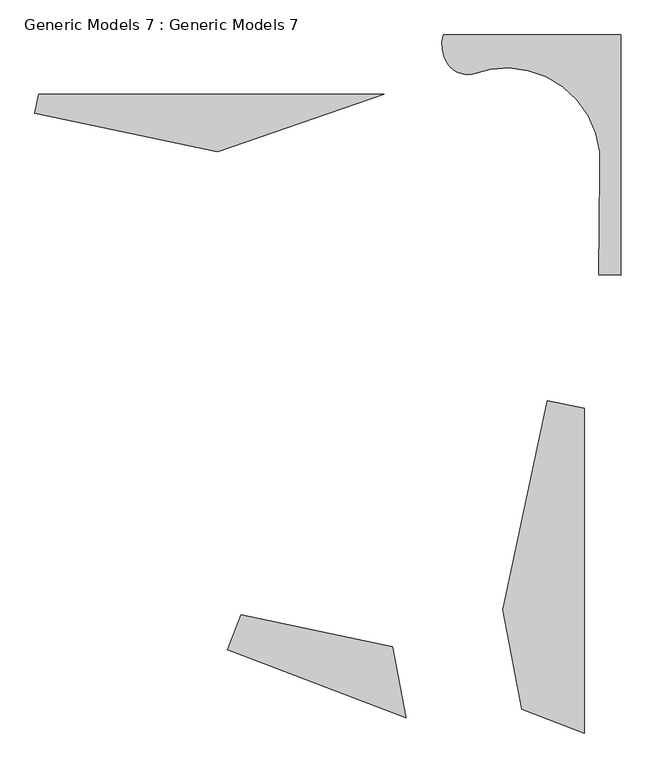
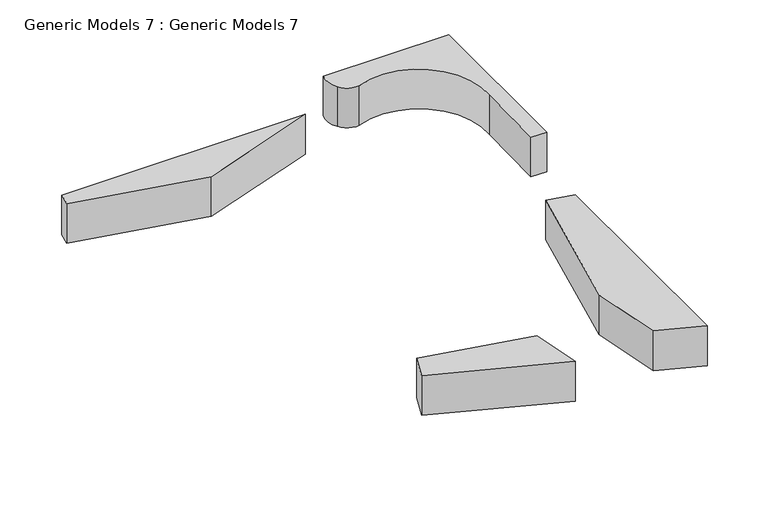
"""IFC4 building model written with IfcOpenShell, lengths in millimetres: proxy geometry, Generic Models 7 : Generic Models 7."""

from ifc_helpers import new_model, si_unit, point, frame_2d, origin, origin_with_axes, place, context, project, spatial, polyline, circle_curve, trimmed, segment, composite_curve, outline, extrude, source, transform, mapped, element, save


def generic_models_7_generic_models_7_7422e29e(model_context):
    return source(origin(), model_context, "Body", "SweptSolid", [
        extrude(outline(polyline([(930191.9500965, 2287.6675148), (951314.5255424, -2208.4790081), (953204.5525016, -12091.0568672), (928321.023888, -2636.3728738), (930191.9500965, 2287.6675148)])), origin_with_axes(), (0.0, 0.0, 1.0), 8273.9884206),
        extrude(outline(polyline([(966713.6471054, 2939.2951685), (972930.2437006, 32144.4222544), (978126.1003503, 31038.4334099), (978126.1003503, -14230.6899708), (969360.4088522, -10900.0995073), (966713.6471054, 2939.2951685)])), origin_with_axes(), (0.0, 0.0, 1.0), 8273.9884206),
        extrude(outline(composite_curve([segment(polyline([(980118.1753802, 49679.3179984), (980290.1632546, 64153.1720601)]), True, "CONTINUOUS"), segment(trimmed(circle_curve(frame_2d((967178.9130026, 65378.4038336)), 13168.374086), [point((980290.1632546, 64153.1720601))], [point((962400.7884493, 77649.3288934))], True, "CARTESIAN"), True, "CONTINUOUS"), segment(trimmed(circle_curve(frame_2d((961857.0133919, 81087.5780388)), 3480.9838407), [point((962400.7884493, 77649.3288934))], [point((958895.110994, 79258.8126946))], False, "CARTESIAN"), True, "CONTINUOUS"), segment(trimmed(circle_curve(frame_2d((963176.8185627, 81725.2849306)), 4941.3060009), [point((958895.110994, 79258.8126946))], [point((958441.5319878, 83137.2219152))], False, "CARTESIAN"), True, "CONTINUOUS"), segment(polyline([(958441.5319878, 83137.2219152), (983209.4192027, 83137.2219152), (983209.4192027, 49642.487257), (980118.1753802, 49679.3179984)]), True, "CONTINUOUS")], self_intersect=False)), origin_with_axes(), (0.0, 0.0, 1.0), 8273.9884206),
        extrude(outline(polyline([(950101.1550469, 74839.5144295), (926877.7331255, 66825.9514763), (901412.8177413, 72246.4074739), (901964.785888, 74839.5144295), (950101.1550469, 74839.5144295)])), origin_with_axes(), (0.0, 0.0, 1.0), 8273.9884206),
    ])


if __name__ == "__main__":
    model = new_model("IFC4")
    model_context = context("Model", 3, world=origin())
    ifc_project = project(units=[si_unit("LENGTHUNIT", "METRE", prefix="MILLI")], contexts=[model_context])
    site = spatial("IfcSite", under=ifc_project)
    building = spatial("IfcBuilding", under=site)
    placement = place(None, origin())
    generic_models_7_generic_models_7_shape = generic_models_7_generic_models_7_7422e29e(model_context)
    element("IfcBuildingElementProxy", 1, Name="Generic Models 7 : Generic Models 7", ObjectType="Generic Models 7 : Generic Models 7", at=placement, inside=building, context=model_context, shape_type="MappedRepresentation", body=[
        mapped(generic_models_7_generic_models_7_shape, transform((0.0, 0.0, 0.0), x_axis=(1.0, 0.0, 0.0), y_axis=(0.0, 1.0, 0.0), z_axis=(0.0, 0.0, 1.0))),
    ])
    save(model, "model.ifc")
